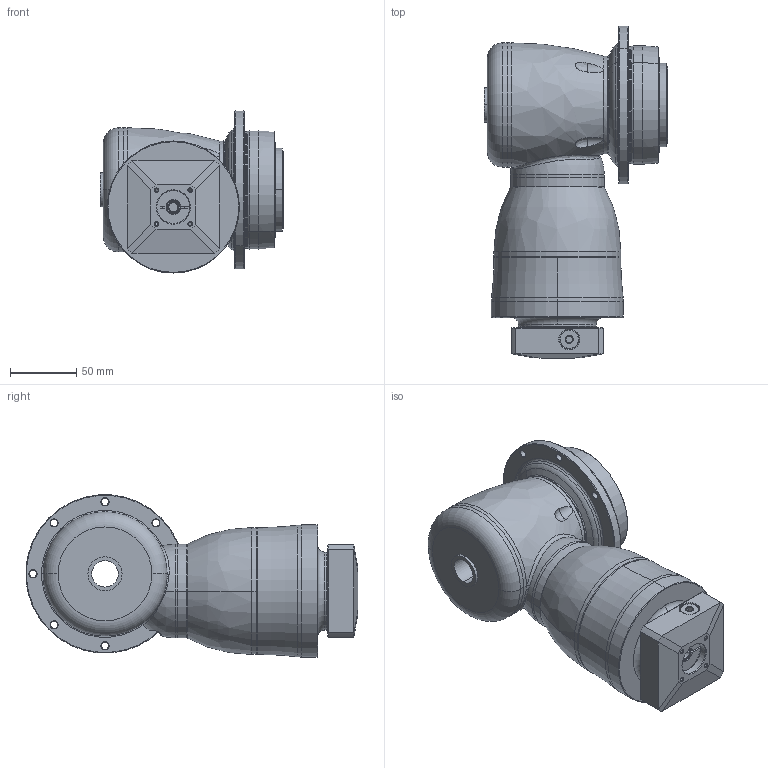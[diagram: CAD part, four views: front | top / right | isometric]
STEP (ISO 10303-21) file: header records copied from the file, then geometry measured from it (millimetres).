
FILE_DESCRIPTION((''),'2;1');
FILE_NAME('KH090_2ST_8-P0409100101_ASM','2016-06-16T',('d01943'),(''),'PRO/ENGINEER BY PARAMETRIC TECHNOLOGY CORPORATION, 2008410','PRO/ENGINEER BY PARAMETRIC TECHNOLOGY CORPORATION, 2008410','');
FILE_SCHEMA(('CONFIG_CONTROL_DESIGN'));
Length unit declared in the file: millimetre
Products named in the file (11): P1008300002_AF1; P1816300001_AF1; P1817300001_AF1; P1315300001_AF1; P1007300001; P1317300001; P0409100101; P0503100005; P0912200001; 21711410012; KH090_2ST_8-P0409100101_ASM
Assembly tree (10 placements, depth 2):
  KH090_2ST_8-P0409100101_ASM
    P1008300002_AF1
    P1816300001_AF1
    P1817300001_AF1
    P1315300001_AF1
    P1007300001
    P1317300001
    P0409100101
    P0503100005
    P0912200001
    21711410012
Bounding box: 138.8 x 251.27 x 122.77 mm (x, y, z)
Volume: 1615402.4 mm3; surface area: 219840.4 mm2
Topology: 11 solids, 11 shells, 520 faces, 1189 edges, 706 vertices
Faces by surface type: cylinder 187, cone 134, plane 93, torus 68, bspline 36, sphere 2
Entity records: 21585 total; most frequent: CARTESIAN_POINT 9683, DIRECTION 2636, ORIENTED_EDGE 2304, EDGE_CURVE 1152, AXIS2_PLACEMENT_3D 1127, VERTEX_POINT 699, CIRCLE 622, EDGE_LOOP 609
